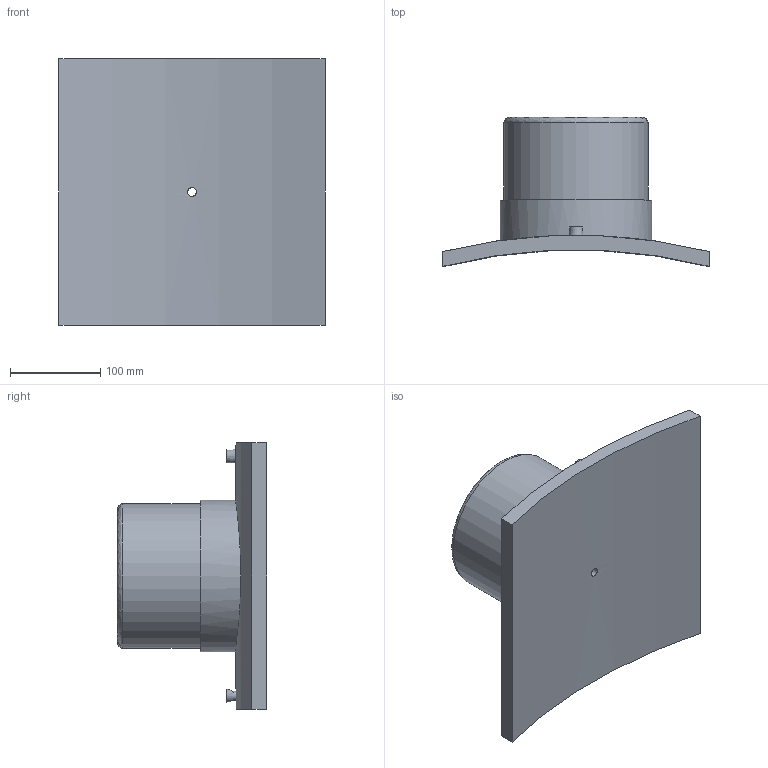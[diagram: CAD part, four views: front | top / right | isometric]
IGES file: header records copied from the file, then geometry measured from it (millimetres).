
Global section: file name: 4958031200160T.ipt; native system: Autodesk Inventor 2019; preprocessor: unknown; author: KIM; date: 20210225.095007; units: millimetre
Bounding box: 295 x 165.41 x 295 mm (x, y, z)
Volume: 2457845.3 mm3; surface area: 322224.4 mm2
Topology: 2 solids, 2 shells, 29 faces, 54 edges, 38 vertices
Faces by surface type: plane 13, revolution 7, cylinder 7, cone 2
Full cylindrical faces by diameter (mm): 4 x2, 16 x1, 160 x1, 168 x1
